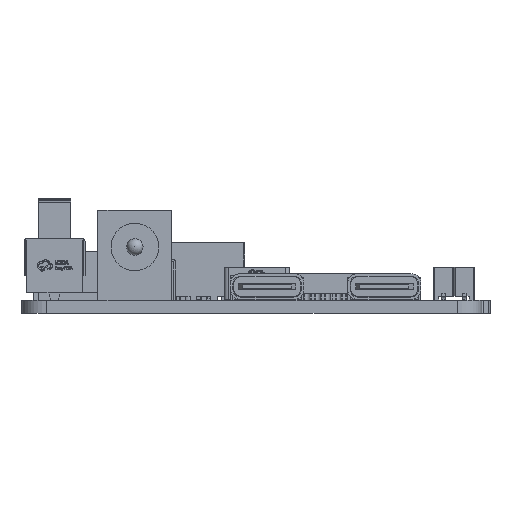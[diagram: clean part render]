
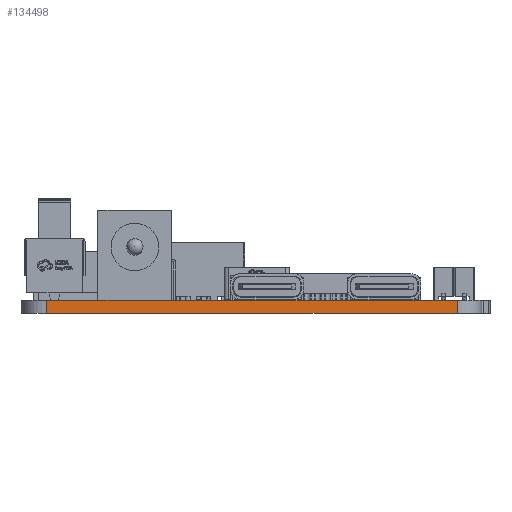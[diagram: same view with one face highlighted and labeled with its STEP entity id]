
A CAD part, front view. The second image highlights one B-rep face of the part: STEP entity #134498.
In plain terms, the highlighted planar face has unit normal (0, -1, 0).
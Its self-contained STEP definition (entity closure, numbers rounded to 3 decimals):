
#13571=FACE_OUTER_BOUND('',#21242,.T.);
#21242=EDGE_LOOP('',(#117764,#117765,#117766,#117767,#117768,#117769));
#27084=LINE('',#200064,#41974);
#27100=LINE('',#200104,#41990);
#34882=LINE('',#232276,#49772);
#35730=LINE('',#235623,#50620);
#35731=LINE('',#235627,#50621);
#35732=LINE('',#235628,#50622);
#41974=VECTOR('',#152781,1.);
#41990=VECTOR('',#152805,1.);
#49772=VECTOR('',#168735,1.);
#50620=VECTOR('',#170599,1.);
#50621=VECTOR('',#170604,1.);
#50622=VECTOR('',#170605,1.);
#56410=VERTEX_POINT('',#200061);
#56411=VERTEX_POINT('',#200063);
#56430=VERTEX_POINT('',#200101);
#56431=VERTEX_POINT('',#200103);
#64128=VERTEX_POINT('',#235622);
#64129=VERTEX_POINT('',#235626);
#71155=EDGE_CURVE('',#56411,#56410,#27084,.T.);
#71175=EDGE_CURVE('',#56431,#56430,#27100,.T.);
#81367=EDGE_CURVE('',#56430,#56411,#34882,.T.);
#82482=EDGE_CURVE('',#64128,#56431,#35730,.T.);
#82484=EDGE_CURVE('',#64129,#56410,#35731,.T.);
#82485=EDGE_CURVE('',#64128,#64129,#35732,.T.);
#117764=ORIENTED_EDGE('',*,*,#82482,.T.);
#117765=ORIENTED_EDGE('',*,*,#71175,.T.);
#117766=ORIENTED_EDGE('',*,*,#81367,.T.);
#117767=ORIENTED_EDGE('',*,*,#71155,.T.);
#117768=ORIENTED_EDGE('',*,*,#82484,.F.);
#117769=ORIENTED_EDGE('',*,*,#82485,.F.);
#128081=PLANE('',#142667);
#134498=ADVANCED_FACE('',(#13571),#128081,.T.);
#142667=AXIS2_PLACEMENT_3D('',#235625,#170602,#170603);
#152781=DIRECTION('',(-1.,0.,0.));
#152805=DIRECTION('',(-1.,0.,0.));
#168735=DIRECTION('',(-1.,0.,0.));
#170599=DIRECTION('',(0.,0.,1.));
#170602=DIRECTION('center_axis',(0.,-1.,0.));
#170603=DIRECTION('ref_axis',(-1.,0.,0.));
#170604=DIRECTION('',(0.,0.,1.));
#170605=DIRECTION('',(-1.,0.,0.));
#200061=CARTESIAN_POINT('',(-48.33,-48.797,1.6));
#200063=CARTESIAN_POINT('',(-42.08,-48.797,1.6));
#200064=CARTESIAN_POINT('',(1.67,-48.797,1.6));
#200101=CARTESIAN_POINT('',(-33.08,-48.797,1.6));
#200103=CARTESIAN_POINT('',(1.67,-48.797,1.6));
#200104=CARTESIAN_POINT('',(1.67,-48.797,1.6));
#232276=CARTESIAN_POINT('',(1.67,-48.797,1.6));
#235622=CARTESIAN_POINT('',(1.67,-48.797,0.));
#235623=CARTESIAN_POINT('',(1.67,-48.797,0.));
#235625=CARTESIAN_POINT('Origin',(1.67,-48.797,0.));
#235626=CARTESIAN_POINT('',(-48.33,-48.797,0.));
#235627=CARTESIAN_POINT('',(-48.33,-48.797,0.));
#235628=CARTESIAN_POINT('',(1.67,-48.797,0.));
